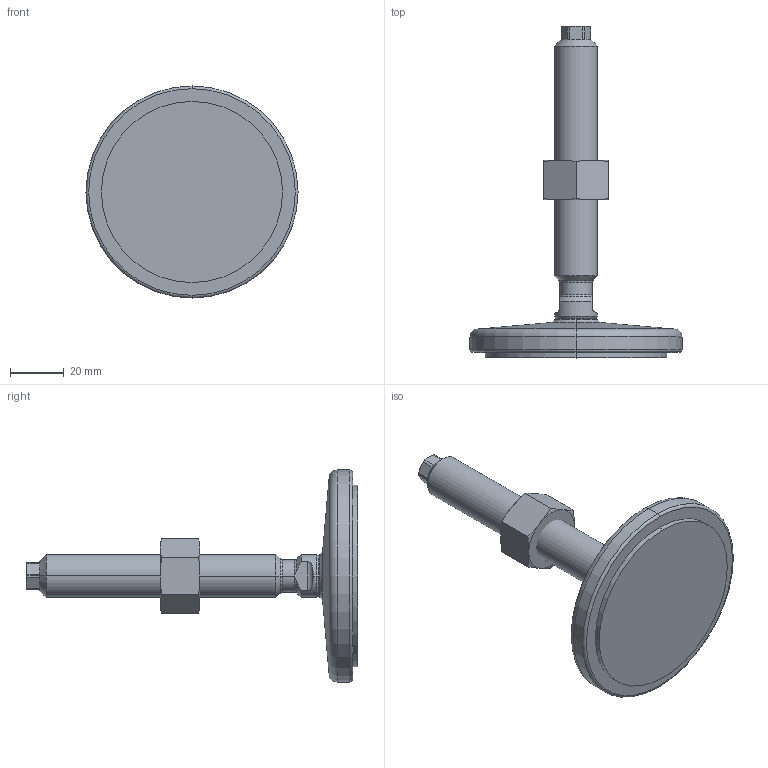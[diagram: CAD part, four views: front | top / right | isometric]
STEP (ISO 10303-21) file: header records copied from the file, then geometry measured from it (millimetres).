
FILE_DESCRIPTION (( 'STEP AP214' ), '1' );
FILE_NAME ('21-80-M16-100-D1-VK.step', '2020-10-02T17:36:27', ( '' ), ( '' ), 'SwSTEP 2.0', 'SolidWorks 2019', '' );
FILE_SCHEMA (( 'AUTOMOTIVE_DESIGN' ));
Length unit declared in the file: millimetre
Products named in the file (4): WB4032^WB21_V_M16; WB21_Spindel_V^WB21_V_M16-100; WB21_Fußteller 21^WB21_V_D1-080-R10-B7 (M8 M10_M12_M16); 21-80-M16-100-D1-VK
Assembly tree (3 placements, depth 2):
  21-80-M16-100-D1-VK
    WB21_Fußteller 21^WB21_V_D1-080-R10-B7 (M8 M10_M12_M16)
    WB21_Spindel_V^WB21_V_M16-100
    WB4032^WB21_V_M16
Bounding box: 79 x 123.64 x 79 mm (x, y, z)
Volume: 79710.1 mm3; surface area: 20568.8 mm2
Topology: 3 solids, 3 shells, 98 faces, 219 edges, 129 vertices
Faces by surface type: cone 29, plane 28, cylinder 27, torus 10, sphere 4
Entity records: 3121 total; most frequent: CARTESIAN_POINT 728, DIRECTION 476, ORIENTED_EDGE 438, EDGE_CURVE 219, AXIS2_PLACEMENT_3D 205, VERTEX_POINT 129, EDGE_LOOP 102, CIRCLE 101
